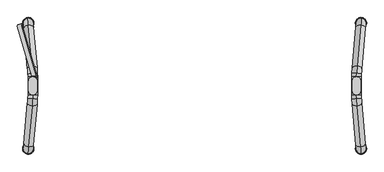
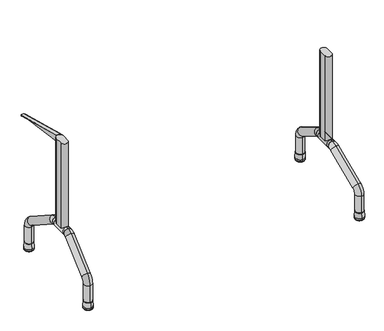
"""IFC4 building model written with IfcOpenShell, lengths in millimetres: furniture geometry, Mesa para refeitório : Mesa para refeitório 150x60cm cód 70470.6."""

from ifc_helpers import new_model, si_unit, point, frame, frame_2d, origin, place, context, project, spatial, polyline, circle_curve, ellipse_curve, trimmed, segment, composite_curve, outline, extrude, source, transform, mapped, element, save
from ifc_brep_helpers import plane_surface, cylinder_surface, revolved_surface, extruded_surface, advanced_brep


def furniture_8e6bd64b(model_context):
    return source(origin(), model_context, "Body", "SolidModel", [
        advanced_brep(
        [(-669.4401581, 37.5, 255.0), (-669.4401581, -37.5, 255.0), (-669.4401581, -37.5, 295.0), (-669.4401581, 37.5, 295.0), (-670.0583573, -51.7441422, 295.0), (-670.0583573, -51.7441422, 255.0), (-670.0583573, 51.7441422, 295.0), (-670.0583573, 51.7441422, 255.0)],
        [
            (0, 1),
            (1, 2, ellipse_curve(frame((-669.4401581, -37.5, 275.0), z_axis=(0.0, 1.0, 0.0), x_axis=(0.0, 0.0, -1.0)), 20.0, 19.923894)),
            (2, 3),
            (3, 0, ellipse_curve(frame((-669.4401581, 37.5, 275.0), z_axis=(0.0, -1.0, 0.0), x_axis=(0.0, 0.0, -1.0)), 20.0, 19.923894)),
            (2, 1, ellipse_curve(frame((-669.4401581, -37.5, 275.0), z_axis=(0.0, 1.0, 0.0), x_axis=(0.0, 0.0, -1.0)), 20.0, 19.923894)),
            (0, 3, ellipse_curve(frame((-669.4401581, 37.5, 275.0), z_axis=(0.0, -1.0, 0.0), x_axis=(0.0, 0.0, -1.0)), 20.0, 19.923894)),
            (4, 5, ellipse_curve(frame((-670.0583573, -51.7441422, 275.0), z_axis=(-0.08663729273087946, -0.9962399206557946, 0.0), x_axis=(0.0, 0.0, -1.0)), 20.0, 19.923894)),
            (5, 4, ellipse_curve(frame((-670.0583573, -51.7441422, 275.0), z_axis=(-0.08663729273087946, -0.9962399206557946, 0.0), x_axis=(0.0, 0.0, -1.0)), 20.0, 19.923894)),
            (4, 2, circle_curve(frame((-833.8513695, -37.5, 295.0), z_axis=(0.0, 0.0, 1.0), x_axis=(1.0, 0.0, 0.0)), 164.4112114)),
            (1, 5, circle_curve(frame((-833.8513695, -37.5, 255.0), z_axis=(0.0, 0.0, -1.0), x_axis=(1.0, 0.0, 0.0)), 164.4112114)),
            (6, 7, ellipse_curve(frame((-670.0583573, 51.7441422, 275.0), z_axis=(-0.08663729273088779, 0.9962399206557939, 0.0), x_axis=(0.0, 0.0, -1.0)), 20.0, 19.923894)),
            (7, 6, ellipse_curve(frame((-670.0583573, 51.7441422, 275.0), z_axis=(-0.08663729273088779, 0.9962399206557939, 0.0), x_axis=(0.0, 0.0, -1.0)), 20.0, 19.923894)),
            (3, 6, circle_curve(frame((-833.8513695, 37.5, 295.0), z_axis=(0.0, 0.0, 1.0), x_axis=(0.996239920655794, 0.08663729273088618, 0.0)), 164.4112114)),
            (7, 0, circle_curve(frame((-833.8513695, 37.5, 255.0), z_axis=(0.0, 0.0, -1.0), x_axis=(0.996239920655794, 0.08663729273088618, 0.0)), 164.4112114)),
        ],
        [
            extruded_surface(trimmed(ellipse_curve(frame((-669.4401581, 37.5, 275.0), z_axis=(0.0, -1.0, 0.0), x_axis=(0.0, 0.0, -1.0)), 20.0, 19.923894), [point((-669.4401581, 37.5, 295.0))], [point((-669.4401581, 37.5, 255.0))], True, "CARTESIAN"), (0.0, -75.0, 0.0), 75.0),
            extruded_surface(trimmed(ellipse_curve(frame((-669.4401581, 37.5, 275.0), z_axis=(0.0, -1.0, 0.0), x_axis=(0.0, 0.0, -1.0)), 20.0, 19.923894), [point((-669.4401581, 37.5, 255.0))], [point((-669.4401581, 37.5, 295.0))], True, "CARTESIAN"), (0.0, -75.0, 0.0), 75.0),
            plane_surface(frame((-670.0583573, -51.7441422, 0.0), z_axis=(-0.08663729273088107, -0.9962399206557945, 0.0), x_axis=(0.0, 0.0, 1.0))),
            revolved_surface(trimmed(ellipse_curve(frame((-669.4401581, -37.5, 275.0), z_axis=(0.0, -1.0, 0.0), x_axis=(0.0, 0.0, -1.0)), 20.0, 19.923894), [point((-669.4401581, -37.5, 295.0))], [point((-669.4401581, -37.5, 255.0))], True, "CARTESIAN"), (-833.8513695, -37.5, 0.0), (0.0, 0.0, 1.0)),
            revolved_surface(trimmed(ellipse_curve(frame((-669.4401581, -37.5, 275.0), z_axis=(0.0, -1.0, 0.0), x_axis=(0.0, 0.0, -1.0)), 20.0, 19.923894), [point((-669.4401581, -37.5, 255.0))], [point((-669.4401581, -37.5, 295.0))], True, "CARTESIAN"), (-833.8513695, -37.5, 0.0), (0.0, 0.0, 1.0)),
            plane_surface(frame((-670.0583573, 51.7441422, 0.0), z_axis=(-0.08663729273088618, 0.996239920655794, 0.0), x_axis=(0.0, 0.0, 1.0))),
            revolved_surface(trimmed(ellipse_curve(frame((-670.0583573, 51.7441422, 275.0), z_axis=(0.08663729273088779, -0.9962399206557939, 0.0), x_axis=(0.0, 0.0, -1.0)), 20.0, 19.923894), [point((-670.0583573, 51.7441422, 295.0))], [point((-670.0583573, 51.7441422, 255.0))], True, "CARTESIAN"), (-833.8513695, 37.5, 0.0), (0.0, 0.0, 1.0)),
            revolved_surface(trimmed(ellipse_curve(frame((-670.0583573, 51.7441422, 275.0), z_axis=(0.08663729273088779, -0.9962399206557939, 0.0), x_axis=(0.0, 0.0, -1.0)), 20.0, 19.923894), [point((-670.0583573, 51.7441422, 255.0))], [point((-670.0583573, 51.7441422, 295.0))], True, "CARTESIAN"), (-833.8513695, 37.5, 0.0), (0.0, 0.0, 1.0)),
        ],
        [
            (0, [[1, 2, 3, 4]]),
            (1, [[-3, 5, -1, 6]]),
            (2, [[7, 8]]),
            (3, [[-7, 9, -2, 10]]),
            (4, [[-8, -10, -5, -9]]),
            (5, [[11, 12]]),
            (6, [[-4, 13, -12, 14]]),
            (7, [[-6, -14, -11, -13]]),
        ],
    ),
        advanced_brep(
        [(-689.9590188, 279.1314153, 43.1183008), (-686.4727891, 239.2836274, 43.1183008), (-689.9590188, 279.1314153, 130.5759348), (-686.4727891, 239.2836274, 130.5759348), (-687.4872272, 250.8787073, 181.5558347), (-672.822711, 83.2625212, 285.9798998), (-670.9843424, 62.2498719, 251.9932999), (-685.6488585, 229.866058, 147.5692348), (-670.0651581, 51.7435473, 295.0), (-670.0651581, 51.7435473, 255.0)],
        [
            (0, 1, circle_curve(frame((-688.215904, 259.2075213, 43.1183008), z_axis=(0.0, 0.0, -1.0), x_axis=(0.08715574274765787, -0.9961946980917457, 0.0)), 20.0)),
            (1, 0, circle_curve(frame((-688.215904, 259.2075213, 43.1183008), z_axis=(0.0, 0.0, -1.0), x_axis=(0.08715574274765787, -0.9961946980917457, 0.0)), 20.0)),
            (0, 2),
            (2, 3, circle_curve(frame((-688.215904, 259.2075213, 130.5759348), z_axis=(0.0, 0.0, -1.0), x_axis=(0.08715574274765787, -0.9961946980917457, 0.0)), 20.0)),
            (3, 1),
            (3, 2, circle_curve(frame((-688.215904, 259.2075213, 130.5759348), z_axis=(0.0, 0.0, -1.0), x_axis=(0.08715574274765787, -0.9961946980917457, 0.0)), 20.0)),
            (4, 5),
            (5, 6, circle_curve(frame((-671.9035267, 72.7561965, 268.9865999), z_axis=(-0.07405318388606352, 0.8464317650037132, -0.5273228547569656), x_axis=(0.04595921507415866, -0.5253162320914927, -0.8496649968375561)), 20.0)),
            (6, 7),
            (7, 4, circle_curve(frame((-686.5680429, 240.3723827, 164.5625347), z_axis=(0.07405318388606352, -0.8464317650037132, 0.5273228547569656), x_axis=(0.04595921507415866, -0.5253162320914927, -0.8496649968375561)), 20.0)),
            (6, 5, circle_curve(frame((-671.9035267, 72.7561965, 268.9865999), z_axis=(-0.07405318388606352, 0.8464317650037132, -0.5273228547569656), x_axis=(0.04595921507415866, -0.5253162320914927, -0.8496649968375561)), 20.0)),
            (4, 7, circle_curve(frame((-686.5680429, 240.3723827, 164.5625347), z_axis=(0.07405318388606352, -0.8464317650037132, 0.5273228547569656), x_axis=(0.04595921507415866, -0.5253162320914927, -0.8496649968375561)), 20.0)),
            (7, 3, circle_curve(frame((-684.7296742, 219.3597334, 130.5759348), z_axis=(-0.9961946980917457, -0.08715574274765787, 0.0), x_axis=(-0.08715574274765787, 0.9961946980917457, 0.0)), 20.0)),
            (2, 4, circle_curve(frame((-684.7296742, 219.3597334, 130.5759348), z_axis=(0.9961946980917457, 0.08715574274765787, 0.0), x_axis=(-0.08715574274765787, 0.9961946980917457, 0.0)), 60.0)),
            (8, 9, circle_curve(frame((-670.0651581, 51.7435473, 275.0), z_axis=(0.08715574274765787, -0.9961946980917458, 0.0), x_axis=(0.0, 0.0, -1.0)), 20.0)),
            (9, 8, circle_curve(frame((-670.0651581, 51.7435473, 275.0), z_axis=(0.08715574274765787, -0.9961946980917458, 0.0), x_axis=(0.0, 0.0, -1.0)), 20.0)),
            (9, 6, circle_curve(frame((-670.0651581, 51.7435473, 235.0), z_axis=(-0.9961946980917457, -0.08715574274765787, 0.0), x_axis=(-0.045959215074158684, 0.5253162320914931, 0.8496649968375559)), 20.0)),
            (5, 8, circle_curve(frame((-670.0651581, 51.7435473, 235.0), z_axis=(0.9961946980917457, 0.08715574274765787, 0.0), x_axis=(-0.045959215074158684, 0.5253162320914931, 0.8496649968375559)), 60.0)),
        ],
        [
            plane_surface(frame((-0.8415623, 319.3449838, 43.1183008), z_axis=(0.0, 0.0, -1.0000000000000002), x_axis=(-0.9961946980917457, -0.08715574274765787, 0.0))),
            cylinder_surface(frame((-688.215904, 259.2075213, 43.1183008), z_axis=(0.0, 0.0, -1.0000000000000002), x_axis=(0.08715574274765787, -0.9961946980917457, 0.0)), 20.0),
            cylinder_surface(frame((-686.5680429, 240.3723827, 164.5625347), z_axis=(-0.07405318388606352, 0.8464317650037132, -0.5273228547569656), x_axis=(0.04595921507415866, -0.5253162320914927, -0.8496649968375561)), 20.0),
            revolved_surface(trimmed(ellipse_curve(frame((-688.215904, 259.2075213, 130.5759348), z_axis=(0.0, 0.0, 1.0000000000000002), x_axis=(0.08715574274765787, -0.9961946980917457, 0.0)), 20.0, 20.0), [point((-686.4727891, 239.2836274, 130.5759348))], [point((-689.9590188, 279.1314153, 130.5759348))], True, "CARTESIAN"), (2.6446674, 279.4971959, 130.5759348), (-0.9961946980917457, -0.08715574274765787, 0.0)),
            revolved_surface(trimmed(ellipse_curve(frame((-688.215904, 259.2075213, 130.5759348), z_axis=(0.0, 0.0, 1.0000000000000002), x_axis=(0.08715574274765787, -0.9961946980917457, 0.0)), 20.0, 20.0), [point((-689.9590188, 279.1314153, 130.5759348))], [point((-686.4727891, 239.2836274, 130.5759348))], True, "CARTESIAN"), (2.6446674, 279.4971959, 130.5759348), (-0.9961946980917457, -0.08715574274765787, 0.0)),
            plane_surface(frame((17.3091835, 111.8810098, 275.0), z_axis=(0.08715574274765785, -0.9961946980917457, 0.0), x_axis=(-0.9961946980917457, -0.08715574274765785, 0.0))),
            revolved_surface(trimmed(ellipse_curve(frame((-671.9035267, 72.7561965, 268.9865999), z_axis=(0.07405318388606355, -0.8464317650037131, 0.527322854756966), x_axis=(0.04595921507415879, -0.5253162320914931, -0.8496649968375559)), 20.0, 20.0), [point((-670.9843424, 62.2498719, 251.9932999))], [point((-672.822711, 83.2625212, 285.9798998))], True, "CARTESIAN"), (17.3091835, 111.8810098, 235.0), (-0.9961946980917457, -0.08715574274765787, 0.0)),
            revolved_surface(trimmed(ellipse_curve(frame((-671.9035267, 72.7561965, 268.9865999), z_axis=(0.07405318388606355, -0.8464317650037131, 0.527322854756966), x_axis=(0.04595921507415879, -0.5253162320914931, -0.8496649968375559)), 20.0, 20.0), [point((-672.822711, 83.2625212, 285.9798998))], [point((-670.9843424, 62.2498719, 251.9932999))], True, "CARTESIAN"), (17.3091835, 111.8810098, 235.0), (-0.9961946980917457, -0.08715574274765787, 0.0)),
        ],
        [
            (0, [[1, 2]]),
            (1, [[3, 4, 5, -1]]),
            (1, [[-5, 6, -3, -2]]),
            (2, [[7, 8, 9, 10]]),
            (2, [[-9, 11, -7, 12]]),
            (3, [[-10, 13, -4, 14]]),
            (4, [[-12, -14, -6, -13]]),
            (5, [[15, 16]]),
            (6, [[-16, 17, -8, 18]]),
            (7, [[-15, -18, -11, -17]]),
        ],
    ),
        advanced_brep(
        [(-686.4727891, -239.2836274, 43.1183008), (-689.9590188, -279.1314153, 43.1183008), (-689.9590188, -279.1314153, 130.5759348), (-686.4727891, -239.2836274, 130.5759348), (-687.4872272, -250.8787073, 181.5558347), (-672.822711, -83.2625212, 285.9798998), (-670.9843424, -62.2498719, 251.9932999), (-685.6488585, -229.866058, 147.5692348), (-670.0651581, -51.7435473, 255.0), (-670.0651581, -51.7435473, 295.0)],
        [
            (0, 1, circle_curve(frame((-688.215904, -259.2075213, 43.1183008), z_axis=(0.0, 0.0, -1.0), x_axis=(-0.08715574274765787, -0.9961946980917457, 0.0)), 20.0)),
            (1, 0, circle_curve(frame((-688.215904, -259.2075213, 43.1183008), z_axis=(0.0, 0.0, -1.0), x_axis=(-0.08715574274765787, -0.9961946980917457, 0.0)), 20.0)),
            (1, 2),
            (2, 3, circle_curve(frame((-688.215904, -259.2075213, 130.5759348), z_axis=(0.0, 0.0, -1.0), x_axis=(-0.08715574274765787, -0.9961946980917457, 0.0)), 20.0)),
            (3, 0),
            (3, 2, circle_curve(frame((-688.215904, -259.2075213, 130.5759348), z_axis=(0.0, 0.0, -1.0), x_axis=(-0.08715574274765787, -0.9961946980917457, 0.0)), 20.0)),
            (4, 5),
            (5, 6, circle_curve(frame((-671.9035267, -72.7561965, 268.9865999), z_axis=(-0.07405318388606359, -0.8464317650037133, -0.5273228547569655), x_axis=(-0.04595921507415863, -0.5253162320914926, 0.8496649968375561)), 20.0)),
            (6, 7),
            (7, 4, circle_curve(frame((-686.5680429, -240.3723827, 164.5625347), z_axis=(0.07405318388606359, 0.8464317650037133, 0.5273228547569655), x_axis=(-0.04595921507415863, -0.5253162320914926, 0.8496649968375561)), 20.0)),
            (6, 5, circle_curve(frame((-671.9035267, -72.7561965, 268.9865999), z_axis=(-0.07405318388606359, -0.8464317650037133, -0.5273228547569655), x_axis=(-0.04595921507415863, -0.5253162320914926, 0.8496649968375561)), 20.0)),
            (4, 7, circle_curve(frame((-686.5680429, -240.3723827, 164.5625347), z_axis=(0.07405318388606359, 0.8464317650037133, 0.5273228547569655), x_axis=(-0.04595921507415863, -0.5253162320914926, 0.8496649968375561)), 20.0)),
            (7, 3, circle_curve(frame((-684.7296742, -219.3597334, 130.5759348), z_axis=(0.9961946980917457, -0.08715574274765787, 0.0), x_axis=(-0.08715574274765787, -0.9961946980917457, 0.0)), 20.0)),
            (2, 4, circle_curve(frame((-684.7296742, -219.3597334, 130.5759348), z_axis=(-0.9961946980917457, 0.08715574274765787, 0.0), x_axis=(-0.08715574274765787, -0.9961946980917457, 0.0)), 60.0)),
            (8, 9, circle_curve(frame((-670.0651581, -51.7435473, 275.0), z_axis=(0.08715574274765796, 0.9961946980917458, 0.0), x_axis=(0.0, 0.0, 1.0)), 20.0)),
            (9, 8, circle_curve(frame((-670.0651581, -51.7435473, 275.0), z_axis=(0.08715574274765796, 0.9961946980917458, 0.0), x_axis=(0.0, 0.0, 1.0)), 20.0)),
            (8, 6, circle_curve(frame((-670.0651581, -51.7435473, 235.0), z_axis=(0.9961946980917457, -0.08715574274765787, 0.0), x_axis=(-0.045959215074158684, -0.5253162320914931, 0.8496649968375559)), 20.0)),
            (5, 9, circle_curve(frame((-670.0651581, -51.7435473, 235.0), z_axis=(-0.9961946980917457, 0.08715574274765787, 0.0), x_axis=(-0.045959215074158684, -0.5253162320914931, 0.8496649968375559)), 60.0)),
        ],
        [
            plane_surface(frame((-0.8415623, -319.3449838, 43.1183008), z_axis=(0.0, 0.0, -1.0000000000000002), x_axis=(-0.9961946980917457, 0.08715574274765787, 0.0))),
            cylinder_surface(frame((-688.215904, -259.2075213, 43.1183008), z_axis=(0.0, 0.0, -1.0000000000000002), x_axis=(-0.08715574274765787, -0.9961946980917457, 0.0)), 20.0),
            cylinder_surface(frame((-686.5680429, -240.3723827, 164.5625347), z_axis=(-0.07405318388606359, -0.8464317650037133, -0.5273228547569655), x_axis=(-0.04595921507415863, -0.5253162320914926, 0.8496649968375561)), 20.0),
            revolved_surface(trimmed(ellipse_curve(frame((-688.215904, -259.2075213, 130.5759348), z_axis=(0.0, 0.0, 1.0000000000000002), x_axis=(-0.08715574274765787, -0.9961946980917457, 0.0)), 20.0, 20.0), [point((-686.4727891, -239.2836274, 130.5759348))], [point((-689.9590188, -279.1314153, 130.5759348))], True, "CARTESIAN"), (2.6446674, -279.4971959, 130.5759348), (0.9961946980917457, -0.08715574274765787, 0.0)),
            revolved_surface(trimmed(ellipse_curve(frame((-688.215904, -259.2075213, 130.5759348), z_axis=(0.0, 0.0, 1.0000000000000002), x_axis=(-0.08715574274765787, -0.9961946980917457, 0.0)), 20.0, 20.0), [point((-689.9590188, -279.1314153, 130.5759348))], [point((-686.4727891, -239.2836274, 130.5759348))], True, "CARTESIAN"), (2.6446674, -279.4971959, 130.5759348), (0.9961946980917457, -0.08715574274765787, 0.0)),
            plane_surface(frame((17.3091835, -111.8810098, 275.0), z_axis=(0.0871557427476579, 0.9961946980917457, 0.0), x_axis=(-0.9961946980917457, 0.0871557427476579, 0.0))),
            revolved_surface(trimmed(ellipse_curve(frame((-671.9035267, -72.7561965, 268.9865999), z_axis=(0.07405318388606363, 0.8464317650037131, 0.527322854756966), x_axis=(-0.04595921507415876, -0.5253162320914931, 0.8496649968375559)), 20.0, 20.0), [point((-670.9843424, -62.2498719, 251.9932999))], [point((-672.822711, -83.2625212, 285.9798998))], True, "CARTESIAN"), (17.3091835, -111.8810098, 235.0), (0.9961946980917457, -0.08715574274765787, 0.0)),
            revolved_surface(trimmed(ellipse_curve(frame((-671.9035267, -72.7561965, 268.9865999), z_axis=(0.07405318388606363, 0.8464317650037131, 0.527322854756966), x_axis=(-0.04595921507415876, -0.5253162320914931, 0.8496649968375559)), 20.0, 20.0), [point((-672.822711, -83.2625212, 285.9798998))], [point((-670.9843424, -62.2498719, 251.9932999))], True, "CARTESIAN"), (17.3091835, -111.8810098, 235.0), (0.9961946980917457, -0.08715574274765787, 0.0)),
        ],
        [
            (0, [[1, 2]]),
            (1, [[3, 4, 5, -2]]),
            (1, [[-5, 6, -3, -1]]),
            (2, [[7, 8, 9, 10]]),
            (2, [[-9, 11, -7, 12]]),
            (3, [[-10, 13, -4, 14]]),
            (4, [[-12, -14, -6, -13]]),
            (5, [[15, 16]]),
            (6, [[-15, 17, -8, 18]]),
            (7, [[-16, -18, -11, -17]]),
        ],
    ),
        extrude(outline(composite_curve([segment(polyline([(-687.5814475, -19.3376613), (-687.5814475, 19.4032698)]), True, "CONTINUOUS"), segment(trimmed(circle_curve(frame_2d((-669.5814475, 19.4032698)), 18.0), [point((-687.5814475, 19.4032698))], [point((-651.5814475, 19.4032698))], False, "CARTESIAN"), True, "CONTINUOUS"), segment(polyline([(-651.5814475, 19.4032698), (-651.5814475, -19.3376613)]), True, "CONTINUOUS"), segment(trimmed(circle_curve(frame_2d((-669.5814475, -19.3376613)), 18.0), [point((-651.5814475, -19.3376613))], [point((-687.5814475, -19.3376613))], False, "CARTESIAN"), True, "CONTINUOUS")], self_intersect=False)), frame((0.0, 0.0, 275.0), z_axis=(0.0, 0.0, 1.0), x_axis=(1.0, 0.0, 0.0)), (0.0, 0.0, 1.0), 467.0),
        advanced_brep(
        [(669.4401581, 37.5, 255.0), (669.4401581, 37.5, 295.0), (669.4401581, -37.5, 295.0), (669.4401581, -37.5, 255.0), (670.0583573, -51.7441422, 295.0), (670.0583573, -51.7441422, 255.0), (670.0583573, 51.7441422, 295.0), (670.0583573, 51.7441422, 255.0)],
        [
            (0, 1, ellipse_curve(frame((669.4401581, 37.5, 275.0), z_axis=(0.0, -1.0, 0.0), x_axis=(0.0, 0.0, -1.0)), 20.0, 19.923894)),
            (1, 2),
            (2, 3, ellipse_curve(frame((669.4401581, -37.5, 275.0), z_axis=(0.0, 1.0, 0.0), x_axis=(0.0, 0.0, -1.0)), 20.0, 19.923894)),
            (3, 0),
            (1, 0, ellipse_curve(frame((669.4401581, 37.5, 275.0), z_axis=(0.0, -1.0, 0.0), x_axis=(0.0, 0.0, -1.0)), 20.0, 19.923894)),
            (3, 2, ellipse_curve(frame((669.4401581, -37.5, 275.0), z_axis=(0.0, 1.0, 0.0), x_axis=(0.0, 0.0, -1.0)), 20.0, 19.923894)),
            (4, 5, ellipse_curve(frame((670.0583573, -51.7441422, 275.0), z_axis=(0.08663729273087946, -0.9962399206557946, 0.0), x_axis=(0.0, 0.0, -1.0)), 20.0, 19.923894)),
            (5, 4, ellipse_curve(frame((670.0583573, -51.7441422, 275.0), z_axis=(0.08663729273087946, -0.9962399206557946, 0.0), x_axis=(0.0, 0.0, -1.0)), 20.0, 19.923894)),
            (5, 3, circle_curve(frame((833.8513695, -37.5, 255.0), z_axis=(0.0, 0.0, -1.0), x_axis=(-1.0, 0.0, 0.0)), 164.4112114)),
            (2, 4, circle_curve(frame((833.8513695, -37.5, 295.0), z_axis=(0.0, 0.0, 1.0), x_axis=(-1.0, 0.0, 0.0)), 164.4112114)),
            (6, 7, ellipse_curve(frame((670.0583573, 51.7441422, 275.0), z_axis=(0.08663729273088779, 0.9962399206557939, 0.0), x_axis=(0.0, 0.0, -1.0)), 20.0, 19.923894)),
            (7, 6, ellipse_curve(frame((670.0583573, 51.7441422, 275.0), z_axis=(0.08663729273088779, 0.9962399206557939, 0.0), x_axis=(0.0, 0.0, -1.0)), 20.0, 19.923894)),
            (0, 7, circle_curve(frame((833.8513695, 37.5, 255.0), z_axis=(0.0, 0.0, -1.0), x_axis=(-0.996239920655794, 0.08663729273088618, 0.0)), 164.4112114)),
            (6, 1, circle_curve(frame((833.8513695, 37.5, 295.0), z_axis=(0.0, 0.0, 1.0), x_axis=(-0.996239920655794, 0.08663729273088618, 0.0)), 164.4112114)),
        ],
        [
            extruded_surface(trimmed(ellipse_curve(frame((669.4401581, -37.5, 275.0), z_axis=(0.0, 1.0, 0.0), x_axis=(0.0, 0.0, -1.0)), 20.0, 19.923894), [point((669.4401581, -37.5, 295.0))], [point((669.4401581, -37.5, 255.0))], True, "CARTESIAN"), (0.0, 75.0, 0.0), 75.0),
            extruded_surface(trimmed(ellipse_curve(frame((669.4401581, -37.5, 275.0), z_axis=(0.0, 1.0, 0.0), x_axis=(0.0, 0.0, -1.0)), 20.0, 19.923894), [point((669.4401581, -37.5, 255.0))], [point((669.4401581, -37.5, 295.0))], True, "CARTESIAN"), (0.0, 75.0, 0.0), 75.0),
            plane_surface(frame((670.0583573, -51.7441422, 0.0), z_axis=(0.08663729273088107, -0.9962399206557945, 0.0), x_axis=(0.0, 0.0, 1.0))),
            revolved_surface(trimmed(ellipse_curve(frame((669.4401581, -37.5, 275.0), z_axis=(0.0, 1.0, 0.0), x_axis=(0.0, 0.0, -1.0)), 20.0, 19.923894), [point((669.4401581, -37.5, 295.0))], [point((669.4401581, -37.5, 255.0))], True, "CARTESIAN"), (833.8513695, -37.5, 0.0), (0.0, 0.0, 1.0)),
            revolved_surface(trimmed(ellipse_curve(frame((669.4401581, -37.5, 275.0), z_axis=(0.0, 1.0, 0.0), x_axis=(0.0, 0.0, -1.0)), 20.0, 19.923894), [point((669.4401581, -37.5, 255.0))], [point((669.4401581, -37.5, 295.0))], True, "CARTESIAN"), (833.8513695, -37.5, 0.0), (0.0, 0.0, 1.0)),
            plane_surface(frame((670.0583573, 51.7441422, 0.0), z_axis=(0.08663729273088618, 0.996239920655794, 0.0), x_axis=(0.0, 0.0, 1.0))),
            revolved_surface(trimmed(ellipse_curve(frame((670.0583573, 51.7441422, 275.0), z_axis=(0.08663729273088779, 0.9962399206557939, 0.0), x_axis=(0.0, 0.0, -1.0)), 20.0, 19.923894), [point((670.0583573, 51.7441422, 295.0))], [point((670.0583573, 51.7441422, 255.0))], True, "CARTESIAN"), (833.8513695, 37.5, 0.0), (0.0, 0.0, 1.0)),
            revolved_surface(trimmed(ellipse_curve(frame((670.0583573, 51.7441422, 275.0), z_axis=(0.08663729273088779, 0.9962399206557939, 0.0), x_axis=(0.0, 0.0, -1.0)), 20.0, 19.923894), [point((670.0583573, 51.7441422, 255.0))], [point((670.0583573, 51.7441422, 295.0))], True, "CARTESIAN"), (833.8513695, 37.5, 0.0), (0.0, 0.0, 1.0)),
        ],
        [
            (0, [[1, 2, 3, 4]]),
            (1, [[5, -4, 6, -2]]),
            (2, [[7, 8]]),
            (3, [[9, -3, 10, -8]]),
            (4, [[-10, -6, -9, -7]]),
            (5, [[11, 12]]),
            (6, [[13, -11, 14, -1]]),
            (7, [[-14, -12, -13, -5]]),
        ],
    ),
        advanced_brep(
        [(689.9590188, 279.1314153, 43.1183008), (686.4727891, 239.2836274, 43.1183008), (686.4727891, 239.2836274, 130.5759348), (689.9590188, 279.1314153, 130.5759348), (687.4872272, 250.8787073, 181.5558347), (685.6488585, 229.866058, 147.5692348), (670.9843424, 62.2498719, 251.9932999), (672.822711, 83.2625212, 285.9798998), (670.0651581, 51.7435473, 295.0), (670.0651581, 51.7435473, 255.0)],
        [
            (0, 1, circle_curve(frame((688.215904, 259.2075213, 43.1183008), z_axis=(0.0, 0.0, -1.0), x_axis=(-0.08715574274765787, -0.9961946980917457, 0.0)), 20.0)),
            (1, 0, circle_curve(frame((688.215904, 259.2075213, 43.1183008), z_axis=(0.0, 0.0, -1.0), x_axis=(-0.08715574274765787, -0.9961946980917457, 0.0)), 20.0)),
            (1, 2),
            (2, 3, circle_curve(frame((688.215904, 259.2075213, 130.5759348), z_axis=(0.0, 0.0, -1.0), x_axis=(-0.08715574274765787, -0.9961946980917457, 0.0)), 20.0)),
            (3, 0),
            (3, 2, circle_curve(frame((688.215904, 259.2075213, 130.5759348), z_axis=(0.0, 0.0, -1.0), x_axis=(-0.08715574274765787, -0.9961946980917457, 0.0)), 20.0)),
            (4, 5, circle_curve(frame((686.5680429, 240.3723827, 164.5625347), z_axis=(-0.07405318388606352, -0.8464317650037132, 0.5273228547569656), x_axis=(-0.04595921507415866, -0.5253162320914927, -0.8496649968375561)), 20.0)),
            (5, 6),
            (6, 7, circle_curve(frame((671.9035267, 72.7561965, 268.9865999), z_axis=(0.07405318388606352, 0.8464317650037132, -0.5273228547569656), x_axis=(-0.04595921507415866, -0.5253162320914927, -0.8496649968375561)), 20.0)),
            (7, 4),
            (5, 4, circle_curve(frame((686.5680429, 240.3723827, 164.5625347), z_axis=(-0.07405318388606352, -0.8464317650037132, 0.5273228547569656), x_axis=(-0.04595921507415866, -0.5253162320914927, -0.8496649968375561)), 20.0)),
            (7, 6, circle_curve(frame((671.9035267, 72.7561965, 268.9865999), z_axis=(0.07405318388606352, 0.8464317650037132, -0.5273228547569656), x_axis=(-0.04595921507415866, -0.5253162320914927, -0.8496649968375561)), 20.0)),
            (4, 3, circle_curve(frame((684.7296742, 219.3597334, 130.5759348), z_axis=(-0.9961946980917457, 0.08715574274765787, 0.0), x_axis=(0.08715574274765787, 0.9961946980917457, 0.0)), 60.0)),
            (2, 5, circle_curve(frame((684.7296742, 219.3597334, 130.5759348), z_axis=(0.9961946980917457, -0.08715574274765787, 0.0), x_axis=(0.08715574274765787, 0.9961946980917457, 0.0)), 20.0)),
            (8, 9, circle_curve(frame((670.0651581, 51.7435473, 275.0), z_axis=(-0.08715574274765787, -0.9961946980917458, 0.0), x_axis=(0.0, 0.0, -1.0)), 20.0)),
            (9, 8, circle_curve(frame((670.0651581, 51.7435473, 275.0), z_axis=(-0.08715574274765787, -0.9961946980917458, 0.0), x_axis=(0.0, 0.0, -1.0)), 20.0)),
            (8, 7, circle_curve(frame((670.0651581, 51.7435473, 235.0), z_axis=(-0.9961946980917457, 0.08715574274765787, 0.0), x_axis=(0.045959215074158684, 0.5253162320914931, 0.8496649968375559)), 60.0)),
            (6, 9, circle_curve(frame((670.0651581, 51.7435473, 235.0), z_axis=(0.9961946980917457, -0.08715574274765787, 0.0), x_axis=(0.045959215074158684, 0.5253162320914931, 0.8496649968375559)), 20.0)),
        ],
        [
            plane_surface(frame((0.8415623, 319.3449838, 43.1183008), z_axis=(0.0, 0.0, -1.0000000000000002), x_axis=(0.9961946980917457, -0.08715574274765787, 0.0))),
            cylinder_surface(frame((688.215904, 259.2075213, 43.1183008), z_axis=(0.0, 0.0, -1.0000000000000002), x_axis=(-0.08715574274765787, -0.9961946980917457, 0.0)), 20.0),
            cylinder_surface(frame((686.5680429, 240.3723827, 164.5625347), z_axis=(0.07405318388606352, 0.8464317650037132, -0.5273228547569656), x_axis=(-0.04595921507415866, -0.5253162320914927, -0.8496649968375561)), 20.0),
            revolved_surface(trimmed(ellipse_curve(frame((688.215904, 259.2075213, 130.5759348), z_axis=(0.0, 0.0, -1.0000000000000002), x_axis=(-0.08715574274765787, -0.9961946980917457, 0.0)), 20.0, 20.0), [point((686.4727891, 239.2836274, 130.5759348))], [point((689.9590188, 279.1314153, 130.5759348))], True, "CARTESIAN"), (-2.6446674, 279.4971959, 130.5759348), (0.9961946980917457, -0.08715574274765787, 0.0)),
            revolved_surface(trimmed(ellipse_curve(frame((688.215904, 259.2075213, 130.5759348), z_axis=(0.0, 0.0, -1.0000000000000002), x_axis=(-0.08715574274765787, -0.9961946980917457, 0.0)), 20.0, 20.0), [point((689.9590188, 279.1314153, 130.5759348))], [point((686.4727891, 239.2836274, 130.5759348))], True, "CARTESIAN"), (-2.6446674, 279.4971959, 130.5759348), (0.9961946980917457, -0.08715574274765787, 0.0)),
            plane_surface(frame((-17.3091835, 111.8810098, 275.0), z_axis=(-0.08715574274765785, -0.9961946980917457, 0.0), x_axis=(0.9961946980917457, -0.08715574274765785, 0.0))),
            revolved_surface(trimmed(ellipse_curve(frame((671.9035267, 72.7561965, 268.9865999), z_axis=(0.07405318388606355, 0.8464317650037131, -0.527322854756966), x_axis=(-0.04595921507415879, -0.5253162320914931, -0.8496649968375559)), 20.0, 20.0), [point((670.9843424, 62.2498719, 251.9932999))], [point((672.822711, 83.2625212, 285.9798998))], True, "CARTESIAN"), (-17.3091835, 111.8810098, 235.0), (0.9961946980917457, -0.08715574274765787, 0.0)),
            revolved_surface(trimmed(ellipse_curve(frame((671.9035267, 72.7561965, 268.9865999), z_axis=(0.07405318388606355, 0.8464317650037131, -0.527322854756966), x_axis=(-0.04595921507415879, -0.5253162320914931, -0.8496649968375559)), 20.0, 20.0), [point((672.822711, 83.2625212, 285.9798998))], [point((670.9843424, 62.2498719, 251.9932999))], True, "CARTESIAN"), (-17.3091835, 111.8810098, 235.0), (0.9961946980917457, -0.08715574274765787, 0.0)),
        ],
        [
            (0, [[1, 2]]),
            (1, [[-2, 3, 4, 5]]),
            (1, [[-1, -5, 6, -3]]),
            (2, [[7, 8, 9, 10]]),
            (2, [[11, -10, 12, -8]]),
            (3, [[13, -4, 14, -7]]),
            (4, [[-14, -6, -13, -11]]),
            (5, [[15, 16]]),
            (6, [[17, -9, 18, -15]]),
            (7, [[-18, -12, -17, -16]]),
        ],
    ),
        advanced_brep(
        [(686.4727891, -239.2836274, 43.1183008), (689.9590188, -279.1314153, 43.1183008), (686.4727891, -239.2836274, 130.5759348), (689.9590188, -279.1314153, 130.5759348), (687.4872272, -250.8787073, 181.5558347), (685.6488585, -229.866058, 147.5692348), (670.9843424, -62.2498719, 251.9932999), (672.822711, -83.2625212, 285.9798998), (670.0651581, -51.7435473, 255.0), (670.0651581, -51.7435473, 295.0)],
        [
            (0, 1, circle_curve(frame((688.215904, -259.2075213, 43.1183008), z_axis=(0.0, 0.0, -1.0), x_axis=(0.08715574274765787, -0.9961946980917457, 0.0)), 20.0)),
            (1, 0, circle_curve(frame((688.215904, -259.2075213, 43.1183008), z_axis=(0.0, 0.0, -1.0), x_axis=(0.08715574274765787, -0.9961946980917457, 0.0)), 20.0)),
            (0, 2),
            (2, 3, circle_curve(frame((688.215904, -259.2075213, 130.5759348), z_axis=(0.0, 0.0, -1.0), x_axis=(0.08715574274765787, -0.9961946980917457, 0.0)), 20.0)),
            (3, 1),
            (3, 2, circle_curve(frame((688.215904, -259.2075213, 130.5759348), z_axis=(0.0, 0.0, -1.0), x_axis=(0.08715574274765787, -0.9961946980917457, 0.0)), 20.0)),
            (4, 5, circle_curve(frame((686.5680429, -240.3723827, 164.5625347), z_axis=(-0.07405318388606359, 0.8464317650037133, 0.5273228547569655), x_axis=(0.04595921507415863, -0.5253162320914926, 0.8496649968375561)), 20.0)),
            (5, 6),
            (6, 7, circle_curve(frame((671.9035267, -72.7561965, 268.9865999), z_axis=(0.07405318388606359, -0.8464317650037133, -0.5273228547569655), x_axis=(0.04595921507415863, -0.5253162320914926, 0.8496649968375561)), 20.0)),
            (7, 4),
            (5, 4, circle_curve(frame((686.5680429, -240.3723827, 164.5625347), z_axis=(-0.07405318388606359, 0.8464317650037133, 0.5273228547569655), x_axis=(0.04595921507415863, -0.5253162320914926, 0.8496649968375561)), 20.0)),
            (7, 6, circle_curve(frame((671.9035267, -72.7561965, 268.9865999), z_axis=(0.07405318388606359, -0.8464317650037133, -0.5273228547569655), x_axis=(0.04595921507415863, -0.5253162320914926, 0.8496649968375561)), 20.0)),
            (4, 3, circle_curve(frame((684.7296742, -219.3597334, 130.5759348), z_axis=(0.9961946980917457, 0.08715574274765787, 0.0), x_axis=(0.08715574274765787, -0.9961946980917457, 0.0)), 60.0)),
            (2, 5, circle_curve(frame((684.7296742, -219.3597334, 130.5759348), z_axis=(-0.9961946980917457, -0.08715574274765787, 0.0), x_axis=(0.08715574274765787, -0.9961946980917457, 0.0)), 20.0)),
            (8, 9, circle_curve(frame((670.0651581, -51.7435473, 275.0), z_axis=(-0.08715574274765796, 0.9961946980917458, 0.0), x_axis=(0.0, 0.0, 1.0)), 20.0)),
            (9, 8, circle_curve(frame((670.0651581, -51.7435473, 275.0), z_axis=(-0.08715574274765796, 0.9961946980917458, 0.0), x_axis=(0.0, 0.0, 1.0)), 20.0)),
            (9, 7, circle_curve(frame((670.0651581, -51.7435473, 235.0), z_axis=(0.9961946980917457, 0.08715574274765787, 0.0), x_axis=(0.045959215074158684, -0.5253162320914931, 0.8496649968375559)), 60.0)),
            (6, 8, circle_curve(frame((670.0651581, -51.7435473, 235.0), z_axis=(-0.9961946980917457, -0.08715574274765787, 0.0), x_axis=(0.045959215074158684, -0.5253162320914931, 0.8496649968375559)), 20.0)),
        ],
        [
            plane_surface(frame((0.8415623, -319.3449838, 43.1183008), z_axis=(0.0, 0.0, -1.0000000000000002), x_axis=(0.9961946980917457, 0.08715574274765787, 0.0))),
            cylinder_surface(frame((688.215904, -259.2075213, 43.1183008), z_axis=(0.0, 0.0, -1.0000000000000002), x_axis=(0.08715574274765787, -0.9961946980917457, 0.0)), 20.0),
            cylinder_surface(frame((686.5680429, -240.3723827, 164.5625347), z_axis=(0.07405318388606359, -0.8464317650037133, -0.5273228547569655), x_axis=(0.04595921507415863, -0.5253162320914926, 0.8496649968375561)), 20.0),
            revolved_surface(trimmed(ellipse_curve(frame((688.215904, -259.2075213, 130.5759348), z_axis=(0.0, 0.0, -1.0000000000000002), x_axis=(0.08715574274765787, -0.9961946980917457, 0.0)), 20.0, 20.0), [point((686.4727891, -239.2836274, 130.5759348))], [point((689.9590188, -279.1314153, 130.5759348))], True, "CARTESIAN"), (-2.6446674, -279.4971959, 130.5759348), (-0.9961946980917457, -0.08715574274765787, 0.0)),
            revolved_surface(trimmed(ellipse_curve(frame((688.215904, -259.2075213, 130.5759348), z_axis=(0.0, 0.0, -1.0000000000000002), x_axis=(0.08715574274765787, -0.9961946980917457, 0.0)), 20.0, 20.0), [point((689.9590188, -279.1314153, 130.5759348))], [point((686.4727891, -239.2836274, 130.5759348))], True, "CARTESIAN"), (-2.6446674, -279.4971959, 130.5759348), (-0.9961946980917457, -0.08715574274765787, 0.0)),
            plane_surface(frame((-17.3091835, -111.8810098, 275.0), z_axis=(-0.0871557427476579, 0.9961946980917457, 0.0), x_axis=(0.9961946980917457, 0.0871557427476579, 0.0))),
            revolved_surface(trimmed(ellipse_curve(frame((671.9035267, -72.7561965, 268.9865999), z_axis=(0.07405318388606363, -0.8464317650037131, -0.527322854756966), x_axis=(0.04595921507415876, -0.5253162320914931, 0.8496649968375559)), 20.0, 20.0), [point((670.9843424, -62.2498719, 251.9932999))], [point((672.822711, -83.2625212, 285.9798998))], True, "CARTESIAN"), (-17.3091835, -111.8810098, 235.0), (-0.9961946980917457, -0.08715574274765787, 0.0)),
            revolved_surface(trimmed(ellipse_curve(frame((671.9035267, -72.7561965, 268.9865999), z_axis=(0.07405318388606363, -0.8464317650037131, -0.527322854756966), x_axis=(0.04595921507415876, -0.5253162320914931, 0.8496649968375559)), 20.0, 20.0), [point((672.822711, -83.2625212, 285.9798998))], [point((670.9843424, -62.2498719, 251.9932999))], True, "CARTESIAN"), (-17.3091835, -111.8810098, 235.0), (-0.9961946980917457, -0.08715574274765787, 0.0)),
        ],
        [
            (0, [[1, 2]]),
            (1, [[-1, 3, 4, 5]]),
            (1, [[-2, -5, 6, -3]]),
            (2, [[7, 8, 9, 10]]),
            (2, [[11, -10, 12, -8]]),
            (3, [[13, -4, 14, -7]]),
            (4, [[-14, -6, -13, -11]]),
            (5, [[15, 16]]),
            (6, [[17, -9, 18, -16]]),
            (7, [[-18, -12, -17, -15]]),
        ],
    ),
        extrude(outline(composite_curve([segment(trimmed(circle_curve(frame_2d((669.5814475, -19.3376613)), 18.0), [point((687.5814475, -19.3376613))], [point((651.5814475, -19.3376613))], False, "CARTESIAN"), True, "CONTINUOUS"), segment(polyline([(651.5814475, -19.3376613), (651.5814475, 19.4032698)]), True, "CONTINUOUS"), segment(trimmed(circle_curve(frame_2d((669.5814475, 19.4032698)), 18.0), [point((651.5814475, 19.4032698))], [point((687.5814475, 19.4032698))], False, "CARTESIAN"), True, "CONTINUOUS"), segment(polyline([(687.5814475, 19.4032698), (687.5814475, -19.3376613)]), True, "CONTINUOUS")], self_intersect=False)), frame((0.0, 0.0, 275.0), z_axis=(0.0, 0.0, 1.0), x_axis=(1.0, 0.0, 0.0)), (0.0, 0.0, 1.0), 467.0),
        advanced_brep(
        [(-688.215904, 280.5839249, 42.9792915), (-688.215904, 281.212521, 42.3931162), (-688.215904, 238.787479, 42.3931162), (-688.215904, 239.4160751, 42.9792915), (-688.215904, 283.125, 15.0433923), (-688.215904, 236.875, 15.0433923), (-688.215904, 283.125, 7.2213749), (-688.215904, 236.875, 7.2213749), (-688.215904, 276.0093092, 0.1056841), (-688.215904, 243.9906908, 0.1056841), (-688.215904, 260.0, 0.1056841), (-688.215904, 260.0, 42.9792915)],
        [
            (0, 1, circle_curve(frame((-688.215904, 280.5839249, 42.3491605), z_axis=(-1.0, 0.0, 0.0), x_axis=(0.0, -1.0, 0.0)), 0.630131)),
            (1, 2, circle_curve(frame((-688.215904, 260.0, 42.3931162), z_axis=(0.0, 0.0, 1.0), x_axis=(0.0, -1.0, 0.0)), 21.212521)),
            (2, 3, circle_curve(frame((-688.215904, 239.4160751, 42.3491605), z_axis=(-1.0, 0.0, 0.0), x_axis=(0.0, 1.0, 0.0)), 0.630131)),
            (3, 0, circle_curve(frame((-688.215904, 260.0, 42.9792915), z_axis=(0.0, 0.0, -1.0), x_axis=(0.0, -1.0, 0.0)), 20.5839249)),
            (2, 1, circle_curve(frame((-688.215904, 260.0, 42.3931162), z_axis=(0.0, 0.0, 1.0), x_axis=(0.0, -1.0, 0.0)), 21.212521)),
            (0, 3, circle_curve(frame((-688.215904, 260.0, 42.9792915), z_axis=(0.0, 0.0, -1.0), x_axis=(0.0, -1.0, 0.0)), 20.5839249)),
            (1, 4),
            (4, 5, circle_curve(frame((-688.215904, 260.0, 15.0433923), z_axis=(0.0, 0.0, 1.0), x_axis=(0.0, -1.0, 0.0)), 23.125)),
            (5, 2),
            (5, 4, circle_curve(frame((-688.215904, 260.0, 15.0433923), z_axis=(0.0, 0.0, 1.0), x_axis=(0.0, -1.0, 0.0)), 23.125)),
            (4, 6),
            (6, 7, circle_curve(frame((-688.215904, 260.0, 7.2213749), z_axis=(0.0, 0.0, 1.0), x_axis=(0.0, -1.0, 0.0)), 23.125)),
            (7, 5),
            (7, 6, circle_curve(frame((-688.215904, 260.0, 7.2213749), z_axis=(0.0, 0.0, 1.0), x_axis=(0.0, -1.0, 0.0)), 23.125)),
            (6, 8, circle_curve(frame((-688.215904, 276.0093092, 7.2213749), z_axis=(-1.0, 0.0, 0.0), x_axis=(0.0, -1.0, 0.0)), 7.1156908)),
            (8, 9, circle_curve(frame((-688.215904, 260.0, 0.1056841), z_axis=(0.0, 0.0, 1.0), x_axis=(0.0, -1.0, 0.0)), 16.0093092)),
            (9, 7, circle_curve(frame((-688.215904, 243.9906908, 7.2213749), z_axis=(-1.0, 0.0, 0.0), x_axis=(0.0, 1.0, 0.0)), 7.1156908)),
            (9, 8, circle_curve(frame((-688.215904, 260.0, 0.1056841), z_axis=(0.0, 0.0, 1.0), x_axis=(0.0, -1.0, 0.0)), 16.0093092)),
            (8, 10),
            (10, 9),
            (11, 0),
            (3, 11),
        ],
        [
            revolved_surface(trimmed(ellipse_curve(frame((-688.215904, 239.4160751, 42.3491605), z_axis=(-1.0, 0.0, 0.0), x_axis=(0.0, 1.0, 0.0)), 0.630131, 0.630131), [point((-688.215904, 238.787479, 42.3931162))], [point((-688.215904, 239.4160751, 42.9792915))], True, "CARTESIAN"), (-688.215904, 260.0, 0.1056841), (0.0, 0.0, 1.0)),
            revolved_surface(polyline([(-688.215904, 236.875, 15.0433923), (-688.215904, 238.787479, 42.3931162)]), (-688.215904, 260.0, 0.1056841), (0.0, 0.0, 1.0)),
            cylinder_surface(frame((-688.215904, 260.0, 0.1056841), z_axis=(0.0, 0.0, 1.0), x_axis=(0.0, -1.0, 0.0)), 23.125),
            revolved_surface(trimmed(ellipse_curve(frame((-688.215904, 243.9906908, 7.2213749), z_axis=(-1.0, 0.0, 0.0), x_axis=(0.0, 1.0, 0.0)), 7.1156908, 7.1156908), [point((-688.215904, 243.9906908, 0.1056841))], [point((-688.215904, 236.875, 7.2213749))], True, "CARTESIAN"), (-688.215904, 260.0, 0.1056841), (0.0, 0.0, 1.0)),
            plane_surface(frame((-688.215904, 260.0, 0.1056841), z_axis=(0.0, 0.0, -1.0), x_axis=(0.0, -1.0, 0.0))),
            plane_surface(frame((-688.215904, 260.0, 42.9792915), z_axis=(0.0, 0.0, 1.0), x_axis=(0.0, -1.0, 0.0))),
        ],
        [
            (0, [[1, 2, 3, 4]]),
            (0, [[-3, 5, -1, 6]]),
            (1, [[7, 8, 9, -2]]),
            (1, [[-9, 10, -7, -5]]),
            (2, [[11, 12, 13, -8]]),
            (2, [[-13, 14, -11, -10]]),
            (3, [[15, 16, 17, -12]]),
            (3, [[-17, 18, -15, -14]]),
            (4, [[19, 20, -16]]),
            (4, [[-20, -19, -18]]),
            (5, [[21, -4, 22]]),
            (5, [[-22, -6, -21]]),
        ],
    ),
        advanced_brep(
        [(-688.215904, -239.4160751, 42.9792915), (-688.215904, -238.787479, 42.3931162), (-688.215904, -281.212521, 42.3931162), (-688.215904, -280.5839249, 42.9792915), (-688.215904, -236.875, 15.0433923), (-688.215904, -283.125, 15.0433923), (-688.215904, -236.875, 7.2213749), (-688.215904, -283.125, 7.2213749), (-688.215904, -243.9906908, 0.1056841), (-688.215904, -276.0093092, 0.1056841), (-688.215904, -260.0, 0.1056841), (-688.215904, -260.0, 42.9792915)],
        [
            (0, 1, circle_curve(frame((-688.215904, -239.4160751, 42.3491605), z_axis=(-1.0, 0.0, 0.0), x_axis=(0.0, -1.0, 0.0)), 0.630131)),
            (1, 2, circle_curve(frame((-688.215904, -260.0, 42.3931162), z_axis=(0.0, 0.0, 1.0), x_axis=(0.0, -1.0, 0.0)), 21.212521)),
            (2, 3, circle_curve(frame((-688.215904, -280.5839249, 42.3491605), z_axis=(-1.0, 0.0, 0.0), x_axis=(0.0, 1.0, 0.0)), 0.630131)),
            (3, 0, circle_curve(frame((-688.215904, -260.0, 42.9792915), z_axis=(0.0, 0.0, -1.0), x_axis=(0.0, -1.0, 0.0)), 20.5839249)),
            (2, 1, circle_curve(frame((-688.215904, -260.0, 42.3931162), z_axis=(0.0, 0.0, 1.0), x_axis=(0.0, -1.0, 0.0)), 21.212521)),
            (0, 3, circle_curve(frame((-688.215904, -260.0, 42.9792915), z_axis=(0.0, 0.0, -1.0), x_axis=(0.0, -1.0, 0.0)), 20.5839249)),
            (1, 4),
            (4, 5, circle_curve(frame((-688.215904, -260.0, 15.0433923), z_axis=(0.0, 0.0, 1.0), x_axis=(0.0, -1.0, 0.0)), 23.125)),
            (5, 2),
            (5, 4, circle_curve(frame((-688.215904, -260.0, 15.0433923), z_axis=(0.0, 0.0, 1.0), x_axis=(0.0, -1.0, 0.0)), 23.125)),
            (4, 6),
            (6, 7, circle_curve(frame((-688.215904, -260.0, 7.2213749), z_axis=(0.0, 0.0, 1.0), x_axis=(0.0, -1.0, 0.0)), 23.125)),
            (7, 5),
            (7, 6, circle_curve(frame((-688.215904, -260.0, 7.2213749), z_axis=(0.0, 0.0, 1.0), x_axis=(0.0, -1.0, 0.0)), 23.125)),
            (6, 8, circle_curve(frame((-688.215904, -243.9906908, 7.2213749), z_axis=(-1.0, 0.0, 0.0), x_axis=(0.0, -1.0, 0.0)), 7.1156908)),
            (8, 9, circle_curve(frame((-688.215904, -260.0, 0.1056841), z_axis=(0.0, 0.0, 1.0), x_axis=(0.0, -1.0, 0.0)), 16.0093092)),
            (9, 7, circle_curve(frame((-688.215904, -276.0093092, 7.2213749), z_axis=(-1.0, 0.0, 0.0), x_axis=(0.0, 1.0, 0.0)), 7.1156908)),
            (9, 8, circle_curve(frame((-688.215904, -260.0, 0.1056841), z_axis=(0.0, 0.0, 1.0), x_axis=(0.0, -1.0, 0.0)), 16.0093092)),
            (8, 10),
            (10, 9),
            (11, 0),
            (3, 11),
        ],
        [
            revolved_surface(trimmed(ellipse_curve(frame((-688.215904, -280.5839249, 42.3491605), z_axis=(-1.0, 0.0, 0.0), x_axis=(0.0, 1.0, 0.0)), 0.630131, 0.630131), [point((-688.215904, -281.212521, 42.3931162))], [point((-688.215904, -280.5839249, 42.9792915))], True, "CARTESIAN"), (-688.215904, -260.0, 0.1056841), (0.0, 0.0, 1.0)),
            revolved_surface(polyline([(-688.215904, -283.125, 15.0433923), (-688.215904, -281.212521, 42.3931162)]), (-688.215904, -260.0, 0.1056841), (0.0, 0.0, 1.0)),
            cylinder_surface(frame((-688.215904, -260.0, 0.1056841), z_axis=(0.0, 0.0, 1.0), x_axis=(0.0, -1.0, 0.0)), 23.125),
            revolved_surface(trimmed(ellipse_curve(frame((-688.215904, -276.0093092, 7.2213749), z_axis=(-1.0, 0.0, 0.0), x_axis=(0.0, 1.0, 0.0)), 7.1156908, 7.1156908), [point((-688.215904, -276.0093092, 0.1056841))], [point((-688.215904, -283.125, 7.2213749))], True, "CARTESIAN"), (-688.215904, -260.0, 0.1056841), (0.0, 0.0, 1.0)),
            plane_surface(frame((-688.215904, -260.0, 0.1056841), z_axis=(0.0, 0.0, -1.0), x_axis=(0.0, -1.0, 0.0))),
            plane_surface(frame((-688.215904, -260.0, 42.9792915), z_axis=(0.0, 0.0, 1.0), x_axis=(0.0, -1.0, 0.0))),
        ],
        [
            (0, [[1, 2, 3, 4]]),
            (0, [[-3, 5, -1, 6]]),
            (1, [[7, 8, 9, -2]]),
            (1, [[-9, 10, -7, -5]]),
            (2, [[11, 12, 13, -8]]),
            (2, [[-13, 14, -11, -10]]),
            (3, [[15, 16, 17, -12]]),
            (3, [[-17, 18, -15, -14]]),
            (4, [[19, 20, -16]]),
            (4, [[-20, -19, -18]]),
            (5, [[21, -4, 22]]),
            (5, [[-22, -6, -21]]),
        ],
    ),
        advanced_brep(
        [(688.215904, 280.5839249, 42.9792915), (688.215904, 239.4160751, 42.9792915), (688.215904, 238.787479, 42.3931162), (688.215904, 281.212521, 42.3931162), (688.215904, 236.875, 15.0433923), (688.215904, 283.125, 15.0433923), (688.215904, 236.875, 7.2213749), (688.215904, 283.125, 7.2213749), (688.215904, 243.9906908, 0.1056841), (688.215904, 276.0093092, 0.1056841), (688.215904, 260.0, 0.1056841), (688.215904, 260.0, 42.9792915)],
        [
            (0, 1, circle_curve(frame((688.215904, 260.0, 42.9792915), z_axis=(0.0, 0.0, -1.0), x_axis=(0.0, -1.0, 0.0)), 20.5839249)),
            (1, 2, circle_curve(frame((688.215904, 239.4160751, 42.3491605), z_axis=(1.0, 0.0, 0.0), x_axis=(0.0, 1.0, 0.0)), 0.630131)),
            (2, 3, circle_curve(frame((688.215904, 260.0, 42.3931162), z_axis=(0.0, 0.0, 1.0), x_axis=(0.0, -1.0, 0.0)), 21.212521)),
            (3, 0, circle_curve(frame((688.215904, 280.5839249, 42.3491605), z_axis=(1.0, 0.0, 0.0), x_axis=(0.0, -1.0, 0.0)), 0.630131)),
            (1, 0, circle_curve(frame((688.215904, 260.0, 42.9792915), z_axis=(0.0, 0.0, -1.0), x_axis=(0.0, -1.0, 0.0)), 20.5839249)),
            (3, 2, circle_curve(frame((688.215904, 260.0, 42.3931162), z_axis=(0.0, 0.0, 1.0), x_axis=(0.0, -1.0, 0.0)), 21.212521)),
            (2, 4),
            (4, 5, circle_curve(frame((688.215904, 260.0, 15.0433923), z_axis=(0.0, 0.0, 1.0), x_axis=(0.0, -1.0, 0.0)), 23.125)),
            (5, 3),
            (5, 4, circle_curve(frame((688.215904, 260.0, 15.0433923), z_axis=(0.0, 0.0, 1.0), x_axis=(0.0, -1.0, 0.0)), 23.125)),
            (4, 6),
            (6, 7, circle_curve(frame((688.215904, 260.0, 7.2213749), z_axis=(0.0, 0.0, 1.0), x_axis=(0.0, -1.0, 0.0)), 23.125)),
            (7, 5),
            (7, 6, circle_curve(frame((688.215904, 260.0, 7.2213749), z_axis=(0.0, 0.0, 1.0), x_axis=(0.0, -1.0, 0.0)), 23.125)),
            (6, 8, circle_curve(frame((688.215904, 243.9906908, 7.2213749), z_axis=(1.0, 0.0, 0.0), x_axis=(0.0, 1.0, 0.0)), 7.1156908)),
            (8, 9, circle_curve(frame((688.215904, 260.0, 0.1056841), z_axis=(0.0, 0.0, 1.0), x_axis=(0.0, -1.0, 0.0)), 16.0093092)),
            (9, 7, circle_curve(frame((688.215904, 276.0093092, 7.2213749), z_axis=(1.0, 0.0, 0.0), x_axis=(0.0, -1.0, 0.0)), 7.1156908)),
            (9, 8, circle_curve(frame((688.215904, 260.0, 0.1056841), z_axis=(0.0, 0.0, 1.0), x_axis=(0.0, -1.0, 0.0)), 16.0093092)),
            (8, 10),
            (10, 9),
            (11, 1),
            (0, 11),
        ],
        [
            revolved_surface(trimmed(ellipse_curve(frame((688.215904, 239.4160751, 42.3491605), z_axis=(-1.0, 0.0, 0.0), x_axis=(0.0, 1.0, 0.0)), 0.630131, 0.630131), [point((688.215904, 238.787479, 42.3931162))], [point((688.215904, 239.4160751, 42.9792915))], True, "CARTESIAN"), (688.215904, 260.0, 0.1056841), (0.0, 0.0, 1.0)),
            revolved_surface(polyline([(688.215904, 236.875, 15.0433923), (688.215904, 238.787479, 42.3931162)]), (688.215904, 260.0, 0.1056841), (0.0, 0.0, 1.0)),
            cylinder_surface(frame((688.215904, 260.0, 0.1056841), z_axis=(0.0, 0.0, 1.0), x_axis=(0.0, -1.0, 0.0)), 23.125),
            revolved_surface(trimmed(ellipse_curve(frame((688.215904, 243.9906908, 7.2213749), z_axis=(-1.0, 0.0, 0.0), x_axis=(0.0, 1.0, 0.0)), 7.1156908, 7.1156908), [point((688.215904, 243.9906908, 0.1056841))], [point((688.215904, 236.875, 7.2213749))], True, "CARTESIAN"), (688.215904, 260.0, 0.1056841), (0.0, 0.0, 1.0)),
            plane_surface(frame((688.215904, 260.0, 0.1056841), z_axis=(0.0, 0.0, -1.0), x_axis=(0.0, -1.0, 0.0))),
            plane_surface(frame((688.215904, 260.0, 42.9792915), z_axis=(0.0, 0.0, 1.0), x_axis=(0.0, -1.0, 0.0))),
        ],
        [
            (0, [[1, 2, 3, 4]]),
            (0, [[5, -4, 6, -2]]),
            (1, [[-3, 7, 8, 9]]),
            (1, [[-6, -9, 10, -7]]),
            (2, [[-8, 11, 12, 13]]),
            (2, [[-10, -13, 14, -11]]),
            (3, [[-12, 15, 16, 17]]),
            (3, [[-14, -17, 18, -15]]),
            (4, [[-16, 19, 20]]),
            (4, [[-18, -20, -19]]),
            (5, [[21, -1, 22]]),
            (5, [[-22, -5, -21]]),
        ],
    ),
        advanced_brep(
        [(688.215904, -239.4160751, 42.9792915), (688.215904, -280.5839249, 42.9792915), (688.215904, -281.212521, 42.3931162), (688.215904, -238.787479, 42.3931162), (688.215904, -283.125, 15.0433923), (688.215904, -236.875, 15.0433923), (688.215904, -283.125, 7.2213749), (688.215904, -236.875, 7.2213749), (688.215904, -276.0093092, 0.1056841), (688.215904, -243.9906908, 0.1056841), (688.215904, -260.0, 0.1056841), (688.215904, -260.0, 42.9792915)],
        [
            (0, 1, circle_curve(frame((688.215904, -260.0, 42.9792915), z_axis=(0.0, 0.0, -1.0), x_axis=(0.0, -1.0, 0.0)), 20.5839249)),
            (1, 2, circle_curve(frame((688.215904, -280.5839249, 42.3491605), z_axis=(1.0, 0.0, 0.0), x_axis=(0.0, 1.0, 0.0)), 0.630131)),
            (2, 3, circle_curve(frame((688.215904, -260.0, 42.3931162), z_axis=(0.0, 0.0, 1.0), x_axis=(0.0, -1.0, 0.0)), 21.212521)),
            (3, 0, circle_curve(frame((688.215904, -239.4160751, 42.3491605), z_axis=(1.0, 0.0, 0.0), x_axis=(0.0, -1.0, 0.0)), 0.630131)),
            (1, 0, circle_curve(frame((688.215904, -260.0, 42.9792915), z_axis=(0.0, 0.0, -1.0), x_axis=(0.0, -1.0, 0.0)), 20.5839249)),
            (3, 2, circle_curve(frame((688.215904, -260.0, 42.3931162), z_axis=(0.0, 0.0, 1.0), x_axis=(0.0, -1.0, 0.0)), 21.212521)),
            (2, 4),
            (4, 5, circle_curve(frame((688.215904, -260.0, 15.0433923), z_axis=(0.0, 0.0, 1.0), x_axis=(0.0, -1.0, 0.0)), 23.125)),
            (5, 3),
            (5, 4, circle_curve(frame((688.215904, -260.0, 15.0433923), z_axis=(0.0, 0.0, 1.0), x_axis=(0.0, -1.0, 0.0)), 23.125)),
            (4, 6),
            (6, 7, circle_curve(frame((688.215904, -260.0, 7.2213749), z_axis=(0.0, 0.0, 1.0), x_axis=(0.0, -1.0, 0.0)), 23.125)),
            (7, 5),
            (7, 6, circle_curve(frame((688.215904, -260.0, 7.2213749), z_axis=(0.0, 0.0, 1.0), x_axis=(0.0, -1.0, 0.0)), 23.125)),
            (6, 8, circle_curve(frame((688.215904, -276.0093092, 7.2213749), z_axis=(1.0, 0.0, 0.0), x_axis=(0.0, 1.0, 0.0)), 7.1156908)),
            (8, 9, circle_curve(frame((688.215904, -260.0, 0.1056841), z_axis=(0.0, 0.0, 1.0), x_axis=(0.0, -1.0, 0.0)), 16.0093092)),
            (9, 7, circle_curve(frame((688.215904, -243.9906908, 7.2213749), z_axis=(1.0, 0.0, 0.0), x_axis=(0.0, -1.0, 0.0)), 7.1156908)),
            (9, 8, circle_curve(frame((688.215904, -260.0, 0.1056841), z_axis=(0.0, 0.0, 1.0), x_axis=(0.0, -1.0, 0.0)), 16.0093092)),
            (8, 10),
            (10, 9),
            (11, 1),
            (0, 11),
        ],
        [
            revolved_surface(trimmed(ellipse_curve(frame((688.215904, -280.5839249, 42.3491605), z_axis=(-1.0, 0.0, 0.0), x_axis=(0.0, 1.0, 0.0)), 0.630131, 0.630131), [point((688.215904, -281.212521, 42.3931162))], [point((688.215904, -280.5839249, 42.9792915))], True, "CARTESIAN"), (688.215904, -260.0, 0.1056841), (0.0, 0.0, 1.0)),
            revolved_surface(polyline([(688.215904, -283.125, 15.0433923), (688.215904, -281.212521, 42.3931162)]), (688.215904, -260.0, 0.1056841), (0.0, 0.0, 1.0)),
            cylinder_surface(frame((688.215904, -260.0, 0.1056841), z_axis=(0.0, 0.0, 1.0), x_axis=(0.0, -1.0, 0.0)), 23.125),
            revolved_surface(trimmed(ellipse_curve(frame((688.215904, -276.0093092, 7.2213749), z_axis=(-1.0, 0.0, 0.0), x_axis=(0.0, 1.0, 0.0)), 7.1156908, 7.1156908), [point((688.215904, -276.0093092, 0.1056841))], [point((688.215904, -283.125, 7.2213749))], True, "CARTESIAN"), (688.215904, -260.0, 0.1056841), (0.0, 0.0, 1.0)),
            plane_surface(frame((688.215904, -260.0, 0.1056841), z_axis=(0.0, 0.0, -1.0), x_axis=(0.0, -1.0, 0.0))),
            plane_surface(frame((688.215904, -260.0, 42.9792915), z_axis=(0.0, 0.0, 1.0), x_axis=(0.0, -1.0, 0.0))),
        ],
        [
            (0, [[1, 2, 3, 4]]),
            (0, [[5, -4, 6, -2]]),
            (1, [[-3, 7, 8, 9]]),
            (1, [[-6, -9, 10, -7]]),
            (2, [[-8, 11, 12, 13]]),
            (2, [[-10, -13, 14, -11]]),
            (3, [[-12, 15, 16, 17]]),
            (3, [[-14, -17, 18, -15]]),
            (4, [[-16, 19, 20]]),
            (4, [[-18, -20, -19]]),
            (5, [[21, -1, 22]]),
            (5, [[-22, -5, -21]]),
        ],
    ),
        extrude(outline(composite_curve([segment(polyline([(0.0, 0.0), (-11.3499079, -59.0370689), (-236.7172151, -15.7100843)]), True, "CONTINUOUS"), segment(trimmed(circle_curve(frame_2d((-235.1976245, -7.8058636)), 8.0489664), [point((-236.7172151, -15.7100843))], [point((-237.1608757, 0.0))], False, "CARTESIAN"), True, "CONTINUOUS"), segment(polyline([(-237.1608757, 0.0), (0.0, 0.0)]), True, "CONTINUOUS")], self_intersect=False)), frame((-651.5529394, 28.1487461, 681.8818171), z_axis=(0.9612616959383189, 0.27563735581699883, 0.0), x_axis=(0.2706805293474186, -0.943975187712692, -0.1887932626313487)), (0.0, 0.0, 1.0), 1.932216),
        extrude(outline(composite_curve([segment(polyline([(-655.6618953, 42.5875081), (-674.3872851, 42.5875081), (-732.9451635, 246.803099)]), True, "CONTINUOUS"), segment(trimmed(circle_curve(frame_2d((-728.138855, 248.1812858)), 5.0), [point((-732.9451635, 246.803099))], [point((-729.5170418, 252.9875943))], False, "CARTESIAN"), True, "CONTINUOUS"), segment(polyline([(-729.5170418, 252.9875943), (-717.0206397, 256.5708799), (-655.6618953, 42.5875081)]), True, "CONTINUOUS")], self_intersect=False)), frame((0.0, 0.0, 740.0), z_axis=(0.0, 0.0, 1.0), x_axis=(1.0, 0.0, 0.0)), (0.0, 0.0, 1.0), 2.0),
    ])


if __name__ == "__main__":
    model = new_model("IFC4")
    model_context = context("Model", 3, world=origin())
    ifc_project = project(units=[si_unit("LENGTHUNIT", "METRE", prefix="MILLI")], contexts=[model_context])
    site = spatial("IfcSite", under=ifc_project)
    building = spatial("IfcBuilding", under=site)
    placement = place(None, origin())
    furniture_shape = furniture_8e6bd64b(model_context)
    element("IfcFurniture", 1, ObjectType="Mesa para refeitório : Mesa para refeitório 150x60cm cód 70470.6", at=placement, inside=building, context=model_context, shape_type="MappedRepresentation", body=[
        mapped(furniture_shape, transform((0.0, 0.0, 0.0), x_axis=(1.0, 0.0, 0.0), y_axis=(0.0, 1.0, 0.0), z_axis=(0.0, 0.0, 1.0))),
    ])
    save(model, "model.ifc")
